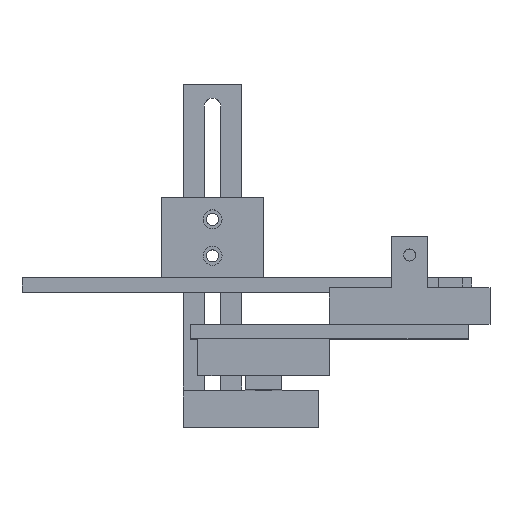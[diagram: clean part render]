
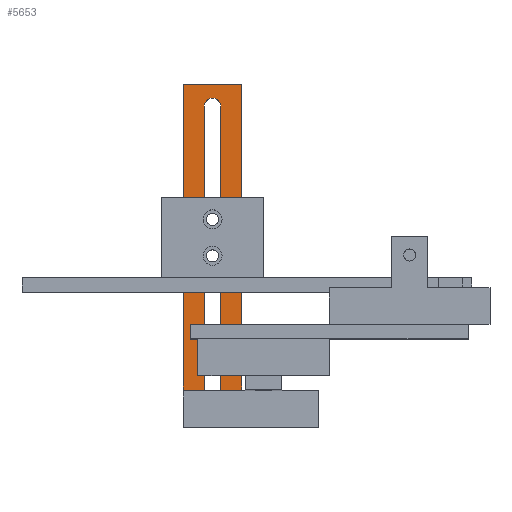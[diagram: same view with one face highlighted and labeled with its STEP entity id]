
A CAD part, top view. The second image highlights one B-rep face of the part: STEP entity #5653.
In plain terms, the highlighted planar face has unit normal (0, 0, 1).
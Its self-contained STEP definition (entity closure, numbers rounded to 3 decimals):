
#4085 = PLANE('',#4086);
#4086 = AXIS2_PLACEMENT_3D('',#4087,#4088,#4089);
#4087 = CARTESIAN_POINT('',(-45.,-28.,-34.7));
#4088 = DIRECTION('',(-0.,1.,0.));
#4089 = DIRECTION('',(0.,0.,-1.));
#4144 = PLANE('',#4145);
#4145 = AXIS2_PLACEMENT_3D('',#4146,#4147,#4148);
#4146 = CARTESIAN_POINT('',(-82.,-38.,-34.7));
#4147 = DIRECTION('',(-1.,-0.,-0.));
#4148 = DIRECTION('',(0.,0.,-1.));
#4370 = VERTEX_POINT('',#4371);
#4371 = CARTESIAN_POINT('',(-82.,-28.,-15.7));
#4392 = EDGE_CURVE('',#4393,#4370,#4395,.T.);
#4393 = VERTEX_POINT('',#4394);
#4394 = CARTESIAN_POINT('',(-76.25,-28.,-15.7));
#4395 = SURFACE_CURVE('',#4396,(#4400,#4407),.PCURVE_S1.);
#4396 = LINE('',#4397,#4398);
#4397 = CARTESIAN_POINT('',(-55.5,-28.,-15.7));
#4398 = VECTOR('',#4399,1.);
#4399 = DIRECTION('',(-1.,-0.,-0.));
#4400 = PCURVE('',#4085,#4401);
#4401 = DEFINITIONAL_REPRESENTATION('',(#4402),#4406);
#4402 = LINE('',#4403,#4404);
#4403 = CARTESIAN_POINT('',(-19.,10.5));
#4404 = VECTOR('',#4405,1.);
#4405 = DIRECTION('',(-0.,1.));
#4406 = ( GEOMETRIC_REPRESENTATION_CONTEXT(2)
PARAMETRIC_REPRESENTATION_CONTEXT() REPRESENTATION_CONTEXT('2D SPACE',''
  ) );
#4407 = PCURVE('',#4408,#4413);
#4408 = PLANE('',#4409);
#4409 = AXIS2_PLACEMENT_3D('',#4410,#4411,#4412);
#4410 = CARTESIAN_POINT('',(-66.,-38.,-15.7));
#4411 = DIRECTION('',(0.,0.,1.));
#4412 = DIRECTION('',(1.,0.,0.));
#4413 = DEFINITIONAL_REPRESENTATION('',(#4414),#4418);
#4414 = LINE('',#4415,#4416);
#4415 = CARTESIAN_POINT('',(10.5,10.));
#4416 = VECTOR('',#4417,1.);
#4417 = DIRECTION('',(-1.,0.));
#4418 = ( GEOMETRIC_REPRESENTATION_CONTEXT(2)
PARAMETRIC_REPRESENTATION_CONTEXT() REPRESENTATION_CONTEXT('2D SPACE',''
  ) );
#4436 = PLANE('',#4437);
#4437 = AXIS2_PLACEMENT_3D('',#4438,#4439,#4440);
#4438 = CARTESIAN_POINT('',(-76.25,-30.,-20.7));
#4439 = DIRECTION('',(-1.,-0.,0.));
#4440 = DIRECTION('',(0.,0.,-1.));
#4477 = VERTEX_POINT('',#4478);
#4478 = CARTESIAN_POINT('',(-71.75,-28.,-15.7));
#4492 = PLANE('',#4493);
#4493 = AXIS2_PLACEMENT_3D('',#4494,#4495,#4496);
#4494 = CARTESIAN_POINT('',(-71.75,-30.,-20.7));
#4495 = DIRECTION('',(-1.,-0.,0.));
#4496 = DIRECTION('',(0.,0.,-1.));
#4504 = EDGE_CURVE('',#4505,#4477,#4507,.T.);
#4505 = VERTEX_POINT('',#4506);
#4506 = CARTESIAN_POINT('',(-66.,-28.,-15.7));
#4507 = SURFACE_CURVE('',#4508,(#4512,#4519),.PCURVE_S1.);
#4508 = LINE('',#4509,#4510);
#4509 = CARTESIAN_POINT('',(-55.5,-28.,-15.7));
#4510 = VECTOR('',#4511,1.);
#4511 = DIRECTION('',(-1.,-0.,-0.));
#4512 = PCURVE('',#4085,#4513);
#4513 = DEFINITIONAL_REPRESENTATION('',(#4514),#4518);
#4514 = LINE('',#4515,#4516);
#4515 = CARTESIAN_POINT('',(-19.,10.5));
#4516 = VECTOR('',#4517,1.);
#4517 = DIRECTION('',(-0.,1.));
#4518 = ( GEOMETRIC_REPRESENTATION_CONTEXT(2)
PARAMETRIC_REPRESENTATION_CONTEXT() REPRESENTATION_CONTEXT('2D SPACE',''
  ) );
#4519 = PCURVE('',#4408,#4520);
#4520 = DEFINITIONAL_REPRESENTATION('',(#4521),#4525);
#4521 = LINE('',#4522,#4523);
#4522 = CARTESIAN_POINT('',(10.5,10.));
#4523 = VECTOR('',#4524,1.);
#4524 = DIRECTION('',(-1.,0.));
#4525 = ( GEOMETRIC_REPRESENTATION_CONTEXT(2)
PARAMETRIC_REPRESENTATION_CONTEXT() REPRESENTATION_CONTEXT('2D SPACE',''
  ) );
#4543 = PLANE('',#4544);
#4544 = AXIS2_PLACEMENT_3D('',#4545,#4546,#4547);
#4545 = CARTESIAN_POINT('',(-66.,-38.,-25.7));
#4546 = DIRECTION('',(-1.,-0.,-0.));
#4547 = DIRECTION('',(0.,0.,-1.));
#4907 = VERTEX_POINT('',#4908);
#4908 = CARTESIAN_POINT('',(-82.,56.,-15.7));
#4922 = PLANE('',#4923);
#4923 = AXIS2_PLACEMENT_3D('',#4924,#4925,#4926);
#4924 = CARTESIAN_POINT('',(-80.,56.,-25.7));
#4925 = DIRECTION('',(-0.,1.,-0.));
#4926 = DIRECTION('',(0.,0.,-1.));
#4934 = EDGE_CURVE('',#4370,#4907,#4935,.T.);
#4935 = SURFACE_CURVE('',#4936,(#4940,#4947),.PCURVE_S1.);
#4936 = LINE('',#4937,#4938);
#4937 = CARTESIAN_POINT('',(-82.,-38.,-15.7));
#4938 = VECTOR('',#4939,1.);
#4939 = DIRECTION('',(-0.,1.,0.));
#4940 = PCURVE('',#4144,#4941);
#4941 = DEFINITIONAL_REPRESENTATION('',(#4942),#4946);
#4942 = LINE('',#4943,#4944);
#4943 = CARTESIAN_POINT('',(-19.,-0.));
#4944 = VECTOR('',#4945,1.);
#4945 = DIRECTION('',(-0.,-1.));
#4946 = ( GEOMETRIC_REPRESENTATION_CONTEXT(2)
PARAMETRIC_REPRESENTATION_CONTEXT() REPRESENTATION_CONTEXT('2D SPACE',''
  ) );
#4947 = PCURVE('',#4408,#4948);
#4948 = DEFINITIONAL_REPRESENTATION('',(#4949),#4953);
#4949 = LINE('',#4950,#4951);
#4950 = CARTESIAN_POINT('',(-16.,0.));
#4951 = VECTOR('',#4952,1.);
#4952 = DIRECTION('',(-0.,1.));
#4953 = ( GEOMETRIC_REPRESENTATION_CONTEXT(2)
PARAMETRIC_REPRESENTATION_CONTEXT() REPRESENTATION_CONTEXT('2D SPACE',''
  ) );
#5180 = CYLINDRICAL_SURFACE('',#5181,2.25);
#5181 = AXIS2_PLACEMENT_3D('',#5182,#5183,#5184);
#5182 = CARTESIAN_POINT('',(-74.,50.,-20.7));
#5183 = DIRECTION('',(-0.,-0.,1.));
#5184 = DIRECTION('',(-1.,-0.,-0.));
#5293 = VERTEX_POINT('',#5294);
#5294 = CARTESIAN_POINT('',(-76.25,50.,-15.7));
#5315 = EDGE_CURVE('',#4393,#5293,#5316,.T.);
#5316 = SURFACE_CURVE('',#5317,(#5321,#5328),.PCURVE_S1.);
#5317 = LINE('',#5318,#5319);
#5318 = CARTESIAN_POINT('',(-76.25,-34.,-15.7));
#5319 = VECTOR('',#5320,1.);
#5320 = DIRECTION('',(-0.,1.,-0.));
#5321 = PCURVE('',#4436,#5322);
#5322 = DEFINITIONAL_REPRESENTATION('',(#5323),#5327);
#5323 = LINE('',#5324,#5325);
#5324 = CARTESIAN_POINT('',(-5.,4.));
#5325 = VECTOR('',#5326,1.);
#5326 = DIRECTION('',(-0.,-1.));
#5327 = ( GEOMETRIC_REPRESENTATION_CONTEXT(2)
PARAMETRIC_REPRESENTATION_CONTEXT() REPRESENTATION_CONTEXT('2D SPACE',''
  ) );
#5328 = PCURVE('',#4408,#5329);
#5329 = DEFINITIONAL_REPRESENTATION('',(#5330),#5334);
#5330 = LINE('',#5331,#5332);
#5331 = CARTESIAN_POINT('',(-10.25,4.));
#5332 = VECTOR('',#5333,1.);
#5333 = DIRECTION('',(0.,1.));
#5334 = ( GEOMETRIC_REPRESENTATION_CONTEXT(2)
PARAMETRIC_REPRESENTATION_CONTEXT() REPRESENTATION_CONTEXT('2D SPACE',''
  ) );
#5463 = VERTEX_POINT('',#5464);
#5464 = CARTESIAN_POINT('',(-71.75,50.,-15.7));
#5485 = EDGE_CURVE('',#4477,#5463,#5486,.T.);
#5486 = SURFACE_CURVE('',#5487,(#5491,#5498),.PCURVE_S1.);
#5487 = LINE('',#5488,#5489);
#5488 = CARTESIAN_POINT('',(-71.75,-34.,-15.7));
#5489 = VECTOR('',#5490,1.);
#5490 = DIRECTION('',(-0.,1.,-0.));
#5491 = PCURVE('',#4492,#5492);
#5492 = DEFINITIONAL_REPRESENTATION('',(#5493),#5497);
#5493 = LINE('',#5494,#5495);
#5494 = CARTESIAN_POINT('',(-5.,4.));
#5495 = VECTOR('',#5496,1.);
#5496 = DIRECTION('',(-0.,-1.));
#5497 = ( GEOMETRIC_REPRESENTATION_CONTEXT(2)
PARAMETRIC_REPRESENTATION_CONTEXT() REPRESENTATION_CONTEXT('2D SPACE',''
  ) );
#5498 = PCURVE('',#4408,#5499);
#5499 = DEFINITIONAL_REPRESENTATION('',(#5500),#5504);
#5500 = LINE('',#5501,#5502);
#5501 = CARTESIAN_POINT('',(-5.75,4.));
#5502 = VECTOR('',#5503,1.);
#5503 = DIRECTION('',(0.,1.));
#5504 = ( GEOMETRIC_REPRESENTATION_CONTEXT(2)
PARAMETRIC_REPRESENTATION_CONTEXT() REPRESENTATION_CONTEXT('2D SPACE',''
  ) );
#5610 = VERTEX_POINT('',#5611);
#5611 = CARTESIAN_POINT('',(-66.,56.,-15.7));
#5632 = EDGE_CURVE('',#4505,#5610,#5633,.T.);
#5633 = SURFACE_CURVE('',#5634,(#5638,#5645),.PCURVE_S1.);
#5634 = LINE('',#5635,#5636);
#5635 = CARTESIAN_POINT('',(-66.,-38.,-15.7));
#5636 = VECTOR('',#5637,1.);
#5637 = DIRECTION('',(-0.,1.,0.));
#5638 = PCURVE('',#4543,#5639);
#5639 = DEFINITIONAL_REPRESENTATION('',(#5640),#5644);
#5640 = LINE('',#5641,#5642);
#5641 = CARTESIAN_POINT('',(-10.,-0.));
#5642 = VECTOR('',#5643,1.);
#5643 = DIRECTION('',(-0.,-1.));
#5644 = ( GEOMETRIC_REPRESENTATION_CONTEXT(2)
PARAMETRIC_REPRESENTATION_CONTEXT() REPRESENTATION_CONTEXT('2D SPACE',''
  ) );
#5645 = PCURVE('',#4408,#5646);
#5646 = DEFINITIONAL_REPRESENTATION('',(#5647),#5651);
#5647 = LINE('',#5648,#5649);
#5648 = CARTESIAN_POINT('',(0.,-0.));
#5649 = VECTOR('',#5650,1.);
#5650 = DIRECTION('',(-0.,1.));
#5651 = ( GEOMETRIC_REPRESENTATION_CONTEXT(2)
PARAMETRIC_REPRESENTATION_CONTEXT() REPRESENTATION_CONTEXT('2D SPACE',''
  ) );
#5653 = ADVANCED_FACE('',(#5654),#4408,.T.);
#5654 = FACE_BOUND('',#5655,.F.);
#5655 = EDGE_LOOP('',(#5656,#5657,#5658,#5659,#5685,#5686,#5687,#5688));
#5656 = ORIENTED_EDGE('',*,*,#5632,.F.);
#5657 = ORIENTED_EDGE('',*,*,#4504,.T.);
#5658 = ORIENTED_EDGE('',*,*,#5485,.T.);
#5659 = ORIENTED_EDGE('',*,*,#5660,.F.);
#5660 = EDGE_CURVE('',#5293,#5463,#5661,.T.);
#5661 = SURFACE_CURVE('',#5662,(#5667,#5678),.PCURVE_S1.);
#5662 = CIRCLE('',#5663,2.25);
#5663 = AXIS2_PLACEMENT_3D('',#5664,#5665,#5666);
#5664 = CARTESIAN_POINT('',(-74.,50.,-15.7));
#5665 = DIRECTION('',(0.,0.,-1.));
#5666 = DIRECTION('',(-1.,-0.,-0.));
#5667 = PCURVE('',#4408,#5668);
#5668 = DEFINITIONAL_REPRESENTATION('',(#5669),#5677);
#5669 = ( BOUNDED_CURVE() B_SPLINE_CURVE(2,(#5670,#5671,#5672,#5673,
#5674,#5675,#5676),.UNSPECIFIED.,.T.,.F.) B_SPLINE_CURVE_WITH_KNOTS((1,2
    ,2,2,2,1),(-2.094,0.,2.094,4.189,
6.283,8.378),.UNSPECIFIED.) CURVE()
GEOMETRIC_REPRESENTATION_ITEM() RATIONAL_B_SPLINE_CURVE((1.,0.5,1.,0.5,
1.,0.5,1.)) REPRESENTATION_ITEM('') );
#5670 = CARTESIAN_POINT('',(-10.25,88.));
#5671 = CARTESIAN_POINT('',(-10.25,91.897));
#5672 = CARTESIAN_POINT('',(-6.875,89.949));
#5673 = CARTESIAN_POINT('',(-3.5,88.));
#5674 = CARTESIAN_POINT('',(-6.875,86.051));
#5675 = CARTESIAN_POINT('',(-10.25,84.103));
#5676 = CARTESIAN_POINT('',(-10.25,88.));
#5677 = ( GEOMETRIC_REPRESENTATION_CONTEXT(2)
PARAMETRIC_REPRESENTATION_CONTEXT() REPRESENTATION_CONTEXT('2D SPACE',''
  ) );
#5678 = PCURVE('',#5180,#5679);
#5679 = DEFINITIONAL_REPRESENTATION('',(#5680),#5684);
#5680 = LINE('',#5681,#5682);
#5681 = CARTESIAN_POINT('',(-0.,5.));
#5682 = VECTOR('',#5683,1.);
#5683 = DIRECTION('',(-1.,0.));
#5684 = ( GEOMETRIC_REPRESENTATION_CONTEXT(2)
PARAMETRIC_REPRESENTATION_CONTEXT() REPRESENTATION_CONTEXT('2D SPACE',''
  ) );
#5685 = ORIENTED_EDGE('',*,*,#5315,.F.);
#5686 = ORIENTED_EDGE('',*,*,#4392,.T.);
#5687 = ORIENTED_EDGE('',*,*,#4934,.T.);
#5688 = ORIENTED_EDGE('',*,*,#5689,.F.);
#5689 = EDGE_CURVE('',#5610,#4907,#5690,.T.);
#5690 = SURFACE_CURVE('',#5691,(#5695,#5702),.PCURVE_S1.);
#5691 = LINE('',#5692,#5693);
#5692 = CARTESIAN_POINT('',(-66.,56.,-15.7));
#5693 = VECTOR('',#5694,1.);
#5694 = DIRECTION('',(-1.,-0.,0.));
#5695 = PCURVE('',#4408,#5696);
#5696 = DEFINITIONAL_REPRESENTATION('',(#5697),#5701);
#5697 = LINE('',#5698,#5699);
#5698 = CARTESIAN_POINT('',(0.,94.));
#5699 = VECTOR('',#5700,1.);
#5700 = DIRECTION('',(-1.,0.));
#5701 = ( GEOMETRIC_REPRESENTATION_CONTEXT(2)
PARAMETRIC_REPRESENTATION_CONTEXT() REPRESENTATION_CONTEXT('2D SPACE',''
  ) );
#5702 = PCURVE('',#4922,#5703);
#5703 = DEFINITIONAL_REPRESENTATION('',(#5704),#5708);
#5704 = LINE('',#5705,#5706);
#5705 = CARTESIAN_POINT('',(-10.,-14.));
#5706 = VECTOR('',#5707,1.);
#5707 = DIRECTION('',(-0.,1.));
#5708 = ( GEOMETRIC_REPRESENTATION_CONTEXT(2)
PARAMETRIC_REPRESENTATION_CONTEXT() REPRESENTATION_CONTEXT('2D SPACE',''
  ) );
